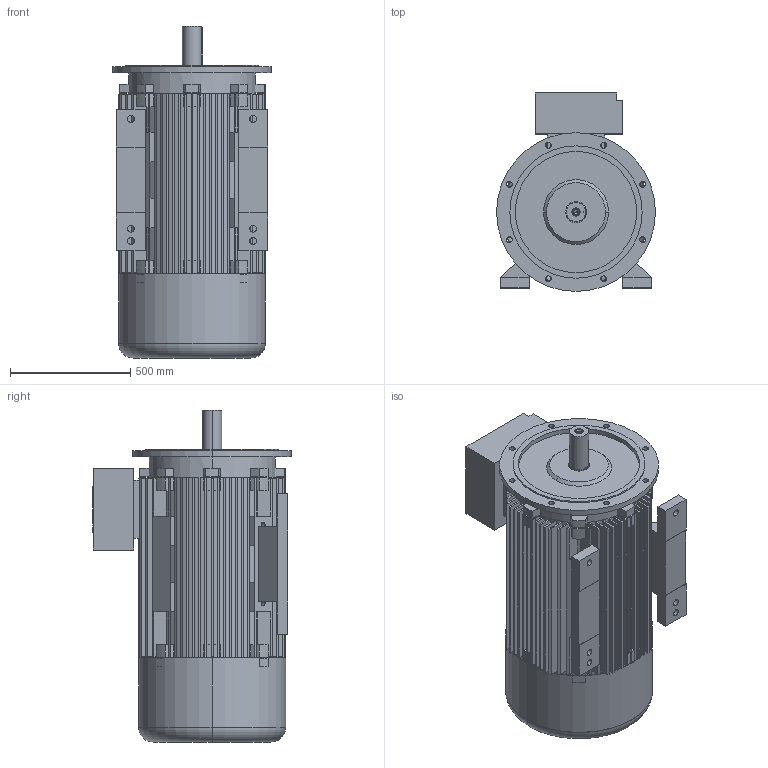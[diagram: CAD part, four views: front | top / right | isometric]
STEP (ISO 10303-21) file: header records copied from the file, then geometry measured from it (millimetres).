
FILE_DESCRIPTION (( 'STEP AP203' ), '1' );
FILE_NAME ('20.17518_C 7AT 315LX -4, -6, -8 B35 Exde STANDK.STEP', '2018-05-21T12:24:37', ( '' ), ( '' ), 'SwSTEP 2.0', 'SolidWorks 2017', '' );
FILE_SCHEMA (( 'CONFIG_CONTROL_DESIGN' ));
Length unit declared in the file: millimetre
Products named in the file (1): 20.17518_C 7AT 315LX -4, -6, -8 B35 Exde STANDK
Bounding box: 660 x 827 x 1380 mm (x, y, z)
Volume: 112194500.8 mm3; surface area: 12044724 mm2
Topology: 8 solids, 8 shells, 855 faces, 2298 edges, 1523 vertices
Faces by surface type: plane 681, cylinder 143, cone 18, bspline 9, torus 4
Entity records: 26956 total; most frequent: CARTESIAN_POINT 4992, ORIENTED_EDGE 4592, DIRECTION 4476, EDGE_CURVE 2296, LINE 1726, VECTOR 1726, VERTEX_POINT 1523, AXIS2_PLACEMENT_3D 1375
